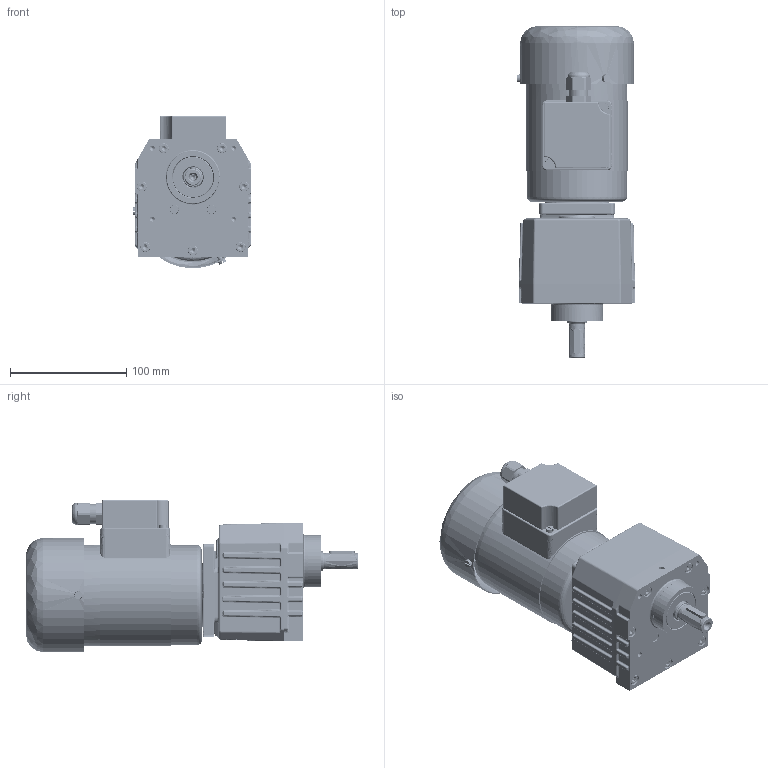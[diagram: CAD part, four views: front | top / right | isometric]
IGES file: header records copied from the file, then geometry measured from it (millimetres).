
Global section: file name: G239_G269-03-4_B14_KK_C; native system: unknown; preprocessor: unknown; author: unknown; organization: unknown; date: 20220204.140610; units: millimetre
Bounding box: 101.6 x 285.4 x 130.96 mm (x, y, z)
Volume: 1246950.4 mm3; surface area: 284851.8 mm2
Topology: 80 solids, 85 shells, 2769 faces, 7149 edges, 4522 vertices
Faces by surface type: bspline 2769
